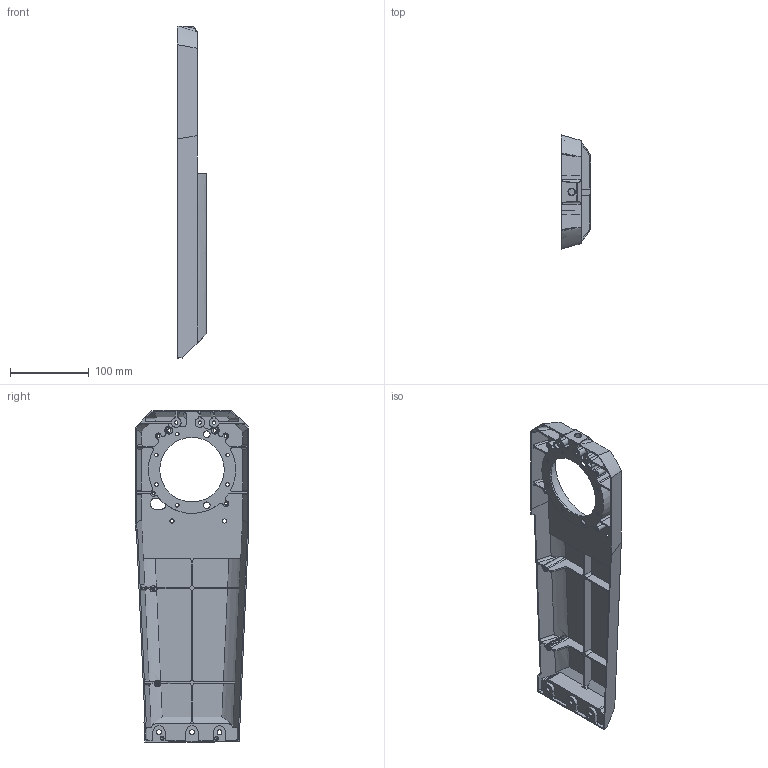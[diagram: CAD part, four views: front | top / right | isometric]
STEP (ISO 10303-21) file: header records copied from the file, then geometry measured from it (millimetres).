
FILE_DESCRIPTION(/* description */ ('STEP AP242 Edition 2','CAx-IF Rec.Pracs.---Representation and Presentation of Product Manufacturing Information (PMI)---4.0---2014-10-13','CAx-IF Rec.Pracs.---3D Tessellated Geometry---0.4---2014-09-14','2;1','CAx-IF Rec.Pracs.---User Defined Attributes---1.5---2016-08-15'),/* implementation_level */ '2;1');
FILE_NAME(/* name */ 'Assy_ForMFG - KD-B-103L_TORSO_LEFT',/* time_stamp */ '2026-05-15T19:56:25Z',/* author */ (''),/* organization */ (''),/* preprocessor_version */ 'ST-DEVELOPER v20',/* originating_system */ 'ONSHAPE BY PTC INC, 1.215',/* authorisation */ ' ');
FILE_SCHEMA (('AP242_MANAGED_MODEL_BASED_3D_ENGINEERING_MIM_LF { 1 0 10303 442 3 1 4 }'));
Length unit declared in the file: metre
Products named in the file (1): KD-B-103L_TORSO_LEFT
Bounding box: 37 x 145 x 422.5 mm (x, y, z)
Volume: 169406.4 mm3; surface area: 186004.4 mm2
Topology: 1 solids, 1 shells, 383 faces, 1099 edges, 724 vertices
Faces by surface type: cylinder 178, plane 141, cone 38, bspline 26
Full cylindrical faces by diameter (mm): 3.3 x4, 3.5 x4, 4 x2, 4.3 x3, 4.5 x8, 5.3 x2, 6.3 x3, 8 x2, 8.25 x5, 8.5 x3, 82 x1, 107 x1
Entity records: 13199 total; most frequent: CARTESIAN_POINT 3542, DIRECTION 1996, ORIENTED_EDGE 1970, EDGE_CURVE 985, AXIS2_PLACEMENT_3D 750, VERTEX_POINT 683, FACE_BOUND 506, EDGE_LOOP 504
